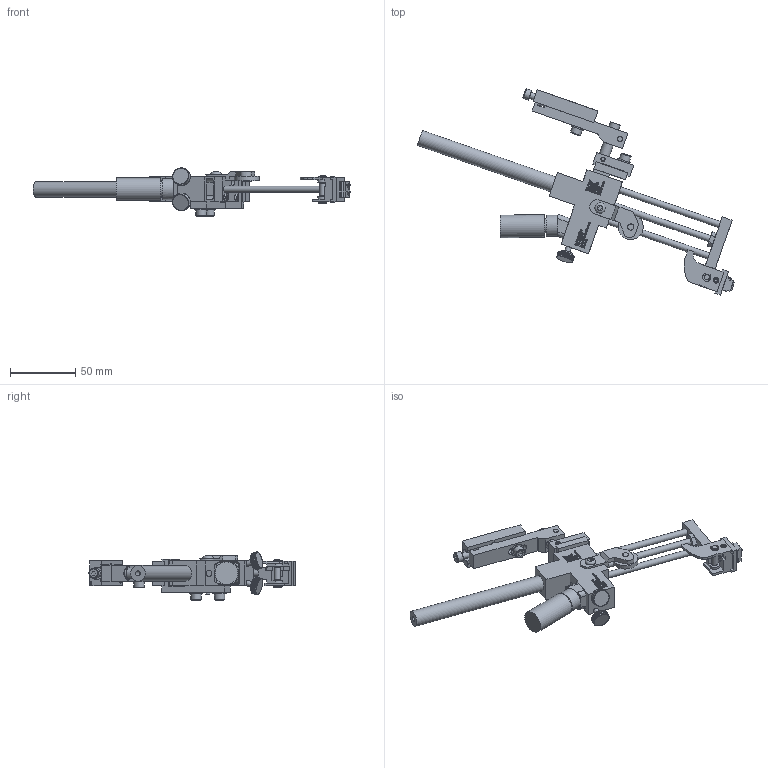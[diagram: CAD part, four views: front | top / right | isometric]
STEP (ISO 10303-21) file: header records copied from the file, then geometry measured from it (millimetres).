
FILE_DESCRIPTION((''),'2;1');
FILE_NAME('C:\Documents and Settings\Ron\My Documents\Inventor\Sprinter Drawing\Machines in Inventor\Model 44\Type\Ext Str\E1\Brkt\Ext\Model 44 ES1 type Ext w brkt.stp','2009-01-14T12:02:26',('Ron'),(''),'Autodesk Inventor 2008','Autodesk Inventor 2008','');
FILE_SCHEMA(('AUTOMOTIVE_DESIGN { 1 0 10303 214 1 1 1 1 }'));
Length unit declared in the file: inch
Products named in the file (1): Model 44 ES1 type Ext w brkt
Bounding box: 242.52 x 157.6 x 36.82 mm (x, y, z)
Volume: 109226.9 mm3; surface area: 53052.5 mm2
Topology: 33 solids, 33 shells, 6244 faces, 15501 edges, 9588 vertices
Faces by surface type: plane 4396, bspline 1323, cylinder 473, cone 48, torus 4
Full cylindrical faces by diameter (mm): 3.175 x4, 3.302 x1, 3.505 x1, 3.962 x1, 4.064 x7, 4.166 x1, 4.699 x1, 4.75 x4, 4.775 x1, 4.826 x7, 5.08 x1, 5.156 x5, 5.207 x2, 5.41 x2, 6.096 x1, 6.68 x1, 7.239 x1, 7.62 x1, 7.925 x7, 7.938 x1, 8.128 x1, 9.017 x1, 9.525 x2, 10.312 x4, 10.922 x1, 11.036 x1, 11.938 x2, 14.478 x1, 16.256 x1, 17.272 x1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
Entity records: 198959 total; most frequent: CARTESIAN_POINT 54539, ORIENTED_EDGE 30544, DIRECTION 23732, EDGE_CURVE 15272, VECTOR 11504, LINE 11504, VERTEX_POINT 9517, EDGE_LOOP 6801
